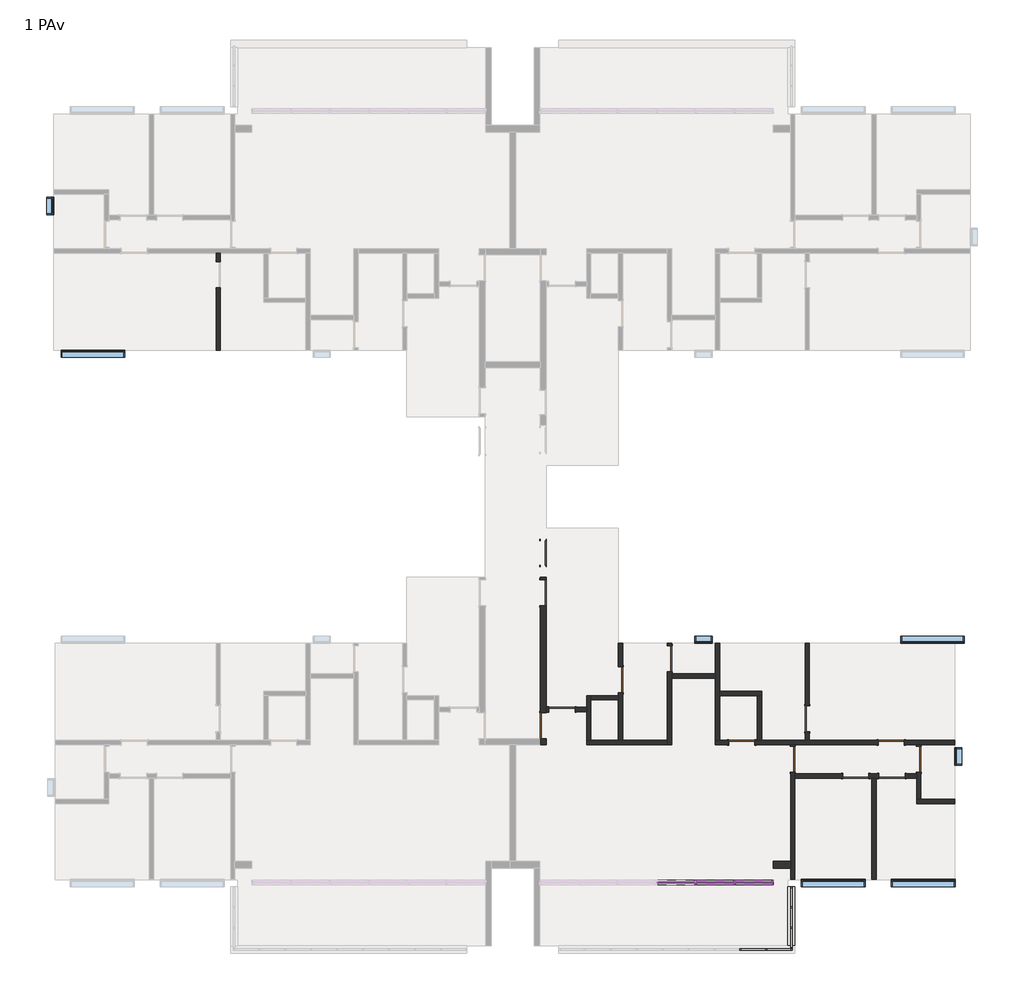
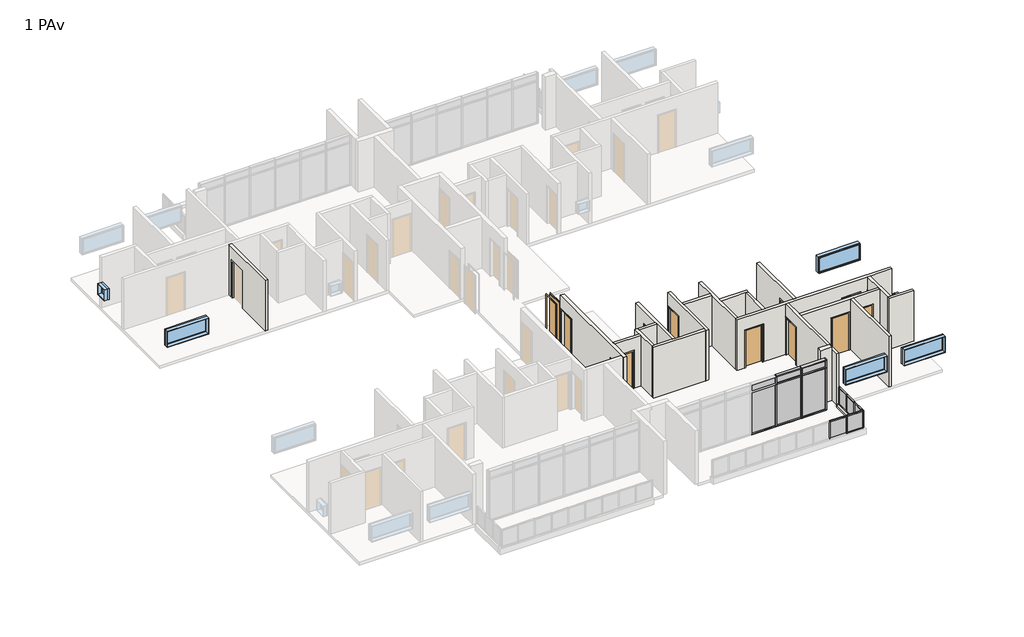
# One storey, part 3 of 6: 29 members, 21 walls, 13 doors, 11 plates, 7 windows.
"""IFC4 building model written with IfcOpenShell, lengths in millimetres."""

from ifc_helpers import new_model, si_unit, frame, origin, place, context, project, spatial, polyline, outline, extrude, faceted_brep, transform, mapped, element, save
from components import door_85_x_210_7675e995, door_90_x_210_ee935524, door_90_x_210_565370b3, door_90_x_210_fbafd55c, montante_retangular_50_mm_quadrado_4acded50, montante_retangular_50_mm_quadrado_237d7072, montante_retangular_50_mm_quadrado_84e40a56, montante_retangular_50_mm_quadrado_3d152aff, montante_retangular_50_mm_quadrado_a01005a4, montante_retangular_50_mm_quadrado_ddd80bd7, montante_retangular_50_x_150_mm_6217edde, montante_retangular_50_x_150_mm_a22249d7, montante_retangular_50_x_150_mm_6225e4e3, montante_retangular_50_x_150_mm_1ca2bba2, montante_retangular_50_x_150_mm_6abf4531, montante_retangular_50_x_150_mm_662c37b1, montante_retangular_50_x_150_mm_567eccab, montante_retangular_50_x_150_mm_0a8c3443, painel_do_sistema_57ceaf50, painel_do_sistema_ab0ed719, painel_do_sistema_0196877a, painel_do_sistema_2aa81470, painel_do_sistema_1ecb5f42, painel_do_sistema_49db1829, painel_do_sistema_5ea5287b, painel_do_sistema_7730abee, window_0610_x_0610_mm_da1d4716, window_0610_x_0610_mm_b5667cc9, window_220_x_90_84e01c73

model = new_model("IFC4")

# Units and contexts
model_context = context("Model", 3, world=origin())
ifc_project = project(units=[si_unit("LENGTHUNIT", "METRE", prefix="MILLI")], contexts=[model_context])

# Site, building, storey
site = spatial("IfcSite", under=ifc_project)
building = spatial("IfcBuilding", under=site)
storey = spatial("IfcBuildingStorey", under=building, Name="1 PAv", Elevation=3000.0)

# Doors
placement = place(None, origin())
door_85_x_210_shape = door_85_x_210_7675e995(model_context)
element("IfcDoor", 1, ObjectType="M_Descarga simples : 85 x 210", at=placement, inside=storey, context=model_context, shape_type="MappedRepresentation", body=[
    mapped(door_85_x_210_shape, transform((23.7734258, -1171.3385375, 3000.0), x_axis=(0.0, -1.0, 0.0), y_axis=(1.0, 0.0, 0.0), z_axis=(0.0, 0.0, 1.0))),
])
door_90_x_210_shape = door_90_x_210_ee935524(model_context)
element("IfcDoor", 2, ObjectType="M_Descarga simples : 90 x 210", at=placement, inside=storey, context=model_context, shape_type="MappedRepresentation", body=[
    mapped(door_90_x_210_shape, transform((12063.7734258, -8861.3385375, 3000.0), x_axis=(-1.0, 0.0, 0.0), y_axis=(0.0, -1.0, 0.0), z_axis=(0.0, 0.0, 1.0))),
])
element("IfcDoor", 3, ObjectType="M_Descarga simples : 90 x 210", at=placement, inside=storey, context=model_context, shape_type="MappedRepresentation", body=[
    mapped(door_90_x_210_shape, transform((12043.7734258, -7711.3385375, 3000.0), x_axis=(1.0, 0.0, 0.0), y_axis=(0.0, 1.0, 0.0), z_axis=(0.0, 0.0, 1.0))),
])
element("IfcDoor", 4, ObjectType="M_Descarga simples : 90 x 210", at=placement, inside=storey, context=model_context, shape_type="MappedRepresentation", body=[
    mapped(door_90_x_210_shape, transform((6883.7734258, -7711.3385375, 3000.0), x_axis=(1.0, 0.0, 0.0), y_axis=(0.0, 1.0, 0.0), z_axis=(0.0, 0.0, 1.0))),
])
door_90_x_210_2_shape = door_90_x_210_565370b3(model_context)
element("IfcDoor", 5, ObjectType="M_Descarga simples : 90 x 210", at=placement, inside=storey, context=model_context, shape_type="MappedRepresentation", body=[
    mapped(door_90_x_210_2_shape, transform((673.7734258, -6571.3385375, 3000.0), x_axis=(-1.0, 0.0, 0.0), y_axis=(0.0, -1.0, 0.0), z_axis=(0.0, 0.0, 1.0))),
])
element("IfcDoor", 6, ObjectType="M_Descarga simples : 90 x 210", at=placement, inside=storey, context=model_context, shape_type="MappedRepresentation", body=[
    mapped(door_90_x_210_2_shape, transform((2698.7734258, -5536.3385375, 3000.0), x_axis=(0.0, 1.0, 0.0), y_axis=(-1.0, 0.0, 0.0), z_axis=(0.0, 0.0, 1.0))),
])
element("IfcDoor", 7, ObjectType="M_Descarga simples : 90 x 210", at=placement, inside=storey, context=model_context, shape_type="MappedRepresentation", body=[
    mapped(door_90_x_210_2_shape, transform((4388.7734258, -4811.3385375, 3000.0), x_axis=(0.0, 1.0, 0.0), y_axis=(-1.0, 0.0, 0.0), z_axis=(0.0, 0.0, 1.0))),
])
element("IfcDoor", 8, ObjectType="M_Descarga simples : 90 x 210", at=placement, inside=storey, context=model_context, shape_type="MappedRepresentation", body=[
    mapped(door_90_x_210_2_shape, transform((9138.7734258, -6886.3385375, 3000.0), x_axis=(0.0, -1.0, 0.0), y_axis=(1.0, 0.0, 0.0), z_axis=(0.0, 0.0, 1.0))),
])
element("IfcDoor", 9, ObjectType="M_Descarga simples : 90 x 210", at=placement, inside=storey, context=model_context, shape_type="MappedRepresentation", body=[
    mapped(door_90_x_210_2_shape, transform((8638.7734258, -8286.3385375, 3000.0), x_axis=(0.0, 1.0, 0.0), y_axis=(-1.0, 0.0, 0.0), z_axis=(0.0, 0.0, 1.0))),
])
element("IfcDoor", 10, ObjectType="M_Descarga simples : 90 x 210", at=placement, inside=storey, context=model_context, shape_type="MappedRepresentation", body=[
    mapped(door_90_x_210_2_shape, transform((12988.7734258, -8286.3385375, 3000.0), x_axis=(0.0, 1.0, 0.0), y_axis=(-1.0, 0.0, 0.0), z_axis=(0.0, 0.0, 1.0))),
])
element("IfcDoor", 11, ObjectType="M_Descarga simples : 90 x 210", at=placement, inside=storey, context=model_context, shape_type="MappedRepresentation", body=[
    mapped(door_90_x_210_2_shape, transform((10813.7734258, -8861.3385375, 3000.0), x_axis=(1.0, 0.0, 0.0), y_axis=(0.0, 1.0, 0.0), z_axis=(0.0, 0.0, 1.0))),
])
door_90_x_210_3_shape = door_90_x_210_fbafd55c(model_context)
element("IfcDoor", 12, ObjectType="M_Descarga simples : 90 x 210", at=placement, inside=storey, context=model_context, shape_type="MappedRepresentation", body=[
    mapped(door_90_x_210_3_shape, transform((23.7734258, -2546.3385375, 3000.0), x_axis=(0.0, 1.0, 0.0), y_axis=(-1.0, 0.0, 0.0), z_axis=(0.0, 0.0, 1.0))),
])
element("IfcDoor", 13, ObjectType="M_Descarga simples : 90 x 210", at=placement, inside=storey, context=model_context, shape_type="MappedRepresentation", body=[
    mapped(door_90_x_210_3_shape, transform((23.7734258, -7125.9292512, 3000.0), x_axis=(0.0, -1.0, 0.0), y_axis=(1.0, 0.0, 0.0), z_axis=(0.0, 0.0, 1.0))),
])

# Members
montante_retangular_50_mm_quadrado_shape = montante_retangular_50_mm_quadrado_4acded50(model_context)
element("IfcMember", 14, ObjectType="Montante retangular : 50 mm Quadrado", at=placement, inside=storey, context=model_context, shape_type="MappedRepresentation", body=[
    mapped(montante_retangular_50_mm_quadrado_shape, transform((8563.7734258, -14856.3385375, 4150.0), x_axis=(0.0, 0.0, 1.0), y_axis=(0.0, -1.0, 0.0), z_axis=(1.0, 0.0, 0.0))),
])
montante_retangular_50_mm_quadrado_2_shape = montante_retangular_50_mm_quadrado_237d7072(model_context)
element("IfcMember", 15, ObjectType="Montante retangular : 50 mm Quadrado", at=placement, inside=storey, context=model_context, shape_type="MappedRepresentation", body=[
    mapped(montante_retangular_50_mm_quadrado_2_shape, transform((7693.7734258, -14856.3385375, 4150.0), x_axis=(0.0, 0.0, 1.0), y_axis=(0.0, -1.0, 0.0), z_axis=(1.0, 0.0, 0.0))),
])
element("IfcMember", 16, ObjectType="Montante retangular : 50 mm Quadrado", at=placement, inside=storey, context=model_context, shape_type="MappedRepresentation", body=[
    mapped(montante_retangular_50_mm_quadrado_shape, transform((7743.7734258, -14856.3385375, 3150.0), x_axis=(0.0, 0.0, -1.0), y_axis=(0.0, -1.0, 0.0), z_axis=(-1.0, 0.0, 0.0))),
])
montante_retangular_50_mm_quadrado_3_shape = montante_retangular_50_mm_quadrado_84e40a56(model_context)
element("IfcMember", 17, ObjectType="Montante retangular : 50 mm Quadrado", at=placement, inside=storey, context=model_context, shape_type="MappedRepresentation", body=[
    mapped(montante_retangular_50_mm_quadrado_3_shape, transform((6823.7734258, -14856.3385375, 3150.0), x_axis=(1.0, 0.0, 0.0), y_axis=(0.0, -1.0, 0.0), z_axis=(0.0, 0.0, -1.0))),
])
element("IfcMember", 18, ObjectType="Montante retangular : 50 mm Quadrado", at=placement, inside=storey, context=model_context, shape_type="MappedRepresentation", body=[
    mapped(montante_retangular_50_mm_quadrado_3_shape, transform((7718.7734258, -14856.3385375, 3150.0), x_axis=(1.0, 0.0, 0.0), y_axis=(0.0, -1.0, 0.0), z_axis=(0.0, 0.0, -1.0))),
])
element("IfcMember", 19, ObjectType="Montante retangular : 50 mm Quadrado", at=placement, inside=storey, context=model_context, shape_type="MappedRepresentation", body=[
    mapped(montante_retangular_50_mm_quadrado_3_shape, transform((8588.7734258, -14116.3385375, 3150.0), x_axis=(0.0, 1.0, 0.0), y_axis=(1.0, 0.0, 0.0), z_axis=(0.0, 0.0, -1.0))),
])
element("IfcMember", 20, ObjectType="Montante retangular : 50 mm Quadrado", at=placement, inside=storey, context=model_context, shape_type="MappedRepresentation", body=[
    mapped(montante_retangular_50_mm_quadrado_3_shape, transform((8588.7734258, -13401.3385375, 3150.0), x_axis=(0.0, 1.0, 0.0), y_axis=(1.0, 0.0, 0.0), z_axis=(0.0, 0.0, -1.0))),
])
montante_retangular_50_mm_quadrado_4_shape = montante_retangular_50_mm_quadrado_3d152aff(model_context)
element("IfcMember", 21, ObjectType="Montante retangular : 50 mm Quadrado", at=placement, inside=storey, context=model_context, shape_type="MappedRepresentation", body=[
    mapped(montante_retangular_50_mm_quadrado_4_shape, transform((8613.7734258, -14856.3385375, 3150.0), x_axis=(1.0, 0.0, 0.0), y_axis=(0.0, -1.0, 0.0), z_axis=(0.0, 0.0, -1.0))),
])
element("IfcMember", 22, ObjectType="Montante retangular : 50 mm Quadrado", at=placement, inside=storey, context=model_context, shape_type="MappedRepresentation", body=[
    mapped(montante_retangular_50_mm_quadrado_4_shape, transform((8588.7734258, -12686.3385375, 3150.0), x_axis=(0.0, 1.0, 0.0), y_axis=(1.0, 0.0, 0.0), z_axis=(0.0, 0.0, -1.0))),
])
element("IfcMember", 23, ObjectType="Montante retangular : 50 mm Quadrado", at=placement, inside=storey, context=model_context, shape_type="MappedRepresentation", body=[
    mapped(montante_retangular_50_mm_quadrado_4_shape, transform((8588.7734258, -14831.3385375, 4150.0), x_axis=(0.0, -1.0, 0.0), y_axis=(1.0, 0.0, 0.0), z_axis=(0.0, 0.0, 1.0))),
])
montante_retangular_50_mm_quadrado_5_shape = montante_retangular_50_mm_quadrado_a01005a4(model_context)
element("IfcMember", 24, ObjectType="Montante retangular : 50 mm Quadrado", at=placement, inside=storey, context=model_context, shape_type="MappedRepresentation", body=[
    mapped(montante_retangular_50_mm_quadrado_5_shape, transform((8588.7734258, -12736.3385375, 4150.0), x_axis=(0.0, 0.0, 1.0), y_axis=(1.0, 0.0, 0.0), z_axis=(0.0, 1.0, 0.0))),
])
element("IfcMember", 25, ObjectType="Montante retangular : 50 mm Quadrado", at=placement, inside=storey, context=model_context, shape_type="MappedRepresentation", body=[
    mapped(montante_retangular_50_mm_quadrado_5_shape, transform((8588.7734258, -14141.3385375, 4150.0), x_axis=(0.0, 0.0, 1.0), y_axis=(1.0, 0.0, 0.0), z_axis=(0.0, 1.0, 0.0))),
])
montante_retangular_50_mm_quadrado_6_shape = montante_retangular_50_mm_quadrado_ddd80bd7(model_context)
element("IfcMember", 26, ObjectType="Montante retangular : 50 mm Quadrado", at=placement, inside=storey, context=model_context, shape_type="MappedRepresentation", body=[
    mapped(montante_retangular_50_mm_quadrado_6_shape, transform((8588.7734258, -13426.3385375, 4150.0), x_axis=(0.0, 0.0, 1.0), y_axis=(1.0, 0.0, 0.0), z_axis=(0.0, 1.0, 0.0))),
])
element("IfcMember", 27, ObjectType="Montante retangular : 50 mm Quadrado", at=placement, inside=storey, context=model_context, shape_type="MappedRepresentation", body=[
    mapped(montante_retangular_50_mm_quadrado_5_shape, transform((8588.7734258, -14781.3385375, 3150.0), x_axis=(0.0, 0.0, -1.0), y_axis=(1.0, 0.0, 0.0), z_axis=(0.0, -1.0, 0.0))),
])
element("IfcMember", 28, ObjectType="Montante retangular : 50 mm Quadrado", at=placement, inside=storey, context=model_context, shape_type="MappedRepresentation", body=[
    mapped(montante_retangular_50_mm_quadrado_5_shape, transform((8588.7734258, -13376.3385375, 3150.0), x_axis=(0.0, 0.0, -1.0), y_axis=(1.0, 0.0, 0.0), z_axis=(0.0, -1.0, 0.0))),
])
element("IfcMember", 29, ObjectType="Montante retangular : 50 mm Quadrado", at=placement, inside=storey, context=model_context, shape_type="MappedRepresentation", body=[
    mapped(montante_retangular_50_mm_quadrado_6_shape, transform((8588.7734258, -14091.3385375, 3150.0), x_axis=(0.0, 0.0, -1.0), y_axis=(1.0, 0.0, 0.0), z_axis=(0.0, -1.0, 0.0))),
])
montante_retangular_50_x_150_mm_shape = montante_retangular_50_x_150_mm_6217edde(model_context)
element("IfcMember", 30, ObjectType="Montante retangular : 50 x 150 mm", at=placement, inside=storey, context=model_context, shape_type="MappedRepresentation", body=[
    mapped(montante_retangular_50_x_150_mm_shape, transform((6654.6067592, -12536.3385375, 5850.0), x_axis=(0.0, 0.0, 1.0), y_axis=(0.0, 1.0, 0.0), z_axis=(-1.0, 0.0, 0.0))),
])
montante_retangular_50_x_150_mm_2_shape = montante_retangular_50_x_150_mm_a22249d7(model_context)
element("IfcMember", 31, ObjectType="Montante retangular : 50 x 150 mm", at=placement, inside=storey, context=model_context, shape_type="MappedRepresentation", body=[
    mapped(montante_retangular_50_x_150_mm_2_shape, transform((5310.4400925, -12536.3385375, 5850.0), x_axis=(0.0, 0.0, 1.0), y_axis=(0.0, 1.0, 0.0), z_axis=(-1.0, 0.0, 0.0))),
])
element("IfcMember", 32, ObjectType="Montante retangular : 50 x 150 mm", at=placement, inside=storey, context=model_context, shape_type="MappedRepresentation", body=[
    mapped(montante_retangular_50_x_150_mm_shape, transform((7923.7734258, -12536.3385375, 3000.0), x_axis=(0.0, 0.0, -1.0), y_axis=(0.0, 1.0, 0.0), z_axis=(1.0, 0.0, 0.0))),
])
element("IfcMember", 33, ObjectType="Montante retangular : 50 x 150 mm", at=placement, inside=storey, context=model_context, shape_type="MappedRepresentation", body=[
    mapped(montante_retangular_50_x_150_mm_2_shape, transform((6604.6067592, -12536.3385375, 3000.0), x_axis=(0.0, 0.0, -1.0), y_axis=(0.0, 1.0, 0.0), z_axis=(1.0, 0.0, 0.0))),
])
element("IfcMember", 34, ObjectType="Montante retangular : 50 x 150 mm", at=placement, inside=storey, context=model_context, shape_type="MappedRepresentation", body=[
    mapped(montante_retangular_50_x_150_mm_2_shape, transform((5260.4400925, -12536.3385375, 3000.0), x_axis=(0.0, 0.0, -1.0), y_axis=(0.0, 1.0, 0.0), z_axis=(1.0, 0.0, 0.0))),
])
montante_retangular_50_x_150_mm_3_shape = montante_retangular_50_x_150_mm_6225e4e3(model_context)
element("IfcMember", 35, ObjectType="Montante retangular : 50 x 150 mm", at=placement, inside=storey, context=model_context, shape_type="MappedRepresentation", body=[
    mapped(montante_retangular_50_x_150_mm_3_shape, transform((6629.6067592, -12536.3385375, 3000.0), x_axis=(-1.0, 0.0, 0.0), y_axis=(0.0, 1.0, 0.0), z_axis=(0.0, 0.0, -1.0))),
])
element("IfcMember", 36, ObjectType="Montante retangular : 50 x 150 mm", at=placement, inside=storey, context=model_context, shape_type="MappedRepresentation", body=[
    mapped(montante_retangular_50_x_150_mm_3_shape, transform((5285.4400925, -12536.3385375, 3000.0), x_axis=(-1.0, 0.0, 0.0), y_axis=(0.0, 1.0, 0.0), z_axis=(0.0, 0.0, -1.0))),
])
montante_retangular_50_x_150_mm_4_shape = montante_retangular_50_x_150_mm_1ca2bba2(model_context)
element("IfcMember", 37, ObjectType="Montante retangular : 50 x 150 mm", at=placement, inside=storey, context=model_context, shape_type="MappedRepresentation", body=[
    mapped(montante_retangular_50_x_150_mm_4_shape, transform((6654.6067592, -12536.3385375, 5400.0), x_axis=(0.0, 0.0, 1.0), y_axis=(0.0, 1.0, 0.0), z_axis=(-1.0, 0.0, 0.0))),
])
montante_retangular_50_x_150_mm_5_shape = montante_retangular_50_x_150_mm_6abf4531(model_context)
element("IfcMember", 38, ObjectType="Montante retangular : 50 x 150 mm", at=placement, inside=storey, context=model_context, shape_type="MappedRepresentation", body=[
    mapped(montante_retangular_50_x_150_mm_5_shape, transform((5310.4400925, -12536.3385375, 5400.0), x_axis=(0.0, 0.0, 1.0), y_axis=(0.0, 1.0, 0.0), z_axis=(-1.0, 0.0, 0.0))),
])
montante_retangular_50_x_150_mm_6_shape = montante_retangular_50_x_150_mm_662c37b1(model_context)
element("IfcMember", 39, ObjectType="Montante retangular : 50 x 150 mm", at=placement, inside=storey, context=model_context, shape_type="MappedRepresentation", body=[
    mapped(montante_retangular_50_x_150_mm_6_shape, transform((7973.7734258, -12536.3385375, 5400.0), x_axis=(1.0, 0.0, 0.0), y_axis=(0.0, 1.0, 0.0), z_axis=(0.0, 0.0, 1.0))),
])
montante_retangular_50_x_150_mm_7_shape = montante_retangular_50_x_150_mm_567eccab(model_context)
element("IfcMember", 40, ObjectType="Montante retangular : 50 x 150 mm", at=placement, inside=storey, context=model_context, shape_type="MappedRepresentation", body=[
    mapped(montante_retangular_50_x_150_mm_7_shape, transform((6629.6067592, -12536.3385375, 5400.0), x_axis=(-1.0, 0.0, 0.0), y_axis=(0.0, 1.0, 0.0), z_axis=(0.0, 0.0, -1.0))),
])
element("IfcMember", 41, ObjectType="Montante retangular : 50 x 150 mm", at=placement, inside=storey, context=model_context, shape_type="MappedRepresentation", body=[
    mapped(montante_retangular_50_x_150_mm_7_shape, transform((5285.4400925, -12536.3385375, 5400.0), x_axis=(-1.0, 0.0, 0.0), y_axis=(0.0, 1.0, 0.0), z_axis=(0.0, 0.0, -1.0))),
])
montante_retangular_50_x_150_mm_8_shape = montante_retangular_50_x_150_mm_0a8c3443(model_context)
element("IfcMember", 42, ObjectType="Montante retangular : 50 x 150 mm", at=placement, inside=storey, context=model_context, shape_type="MappedRepresentation", body=[
    mapped(montante_retangular_50_x_150_mm_8_shape, transform((7973.7734258, -12536.3385375, 5850.0), x_axis=(1.0, 0.0, 0.0), y_axis=(0.0, 1.0, 0.0), z_axis=(0.0, 0.0, 1.0))),
])

# Plates
painel_do_sistema_shape = painel_do_sistema_57ceaf50(model_context)
element("IfcPlate", 43, ObjectType="Painel do sistema : Envidraçado", at=placement, inside=storey, context=model_context, shape_type="MappedRepresentation", body=[
    mapped(painel_do_sistema_shape, transform((8153.7734258, -14856.3385375, 3200.0), x_axis=(1.0, 0.0, 0.0), y_axis=(0.0, 1.0, 0.0), z_axis=(0.0, 0.0, 1.0))),
])
painel_do_sistema_2_shape = painel_do_sistema_ab0ed719(model_context)
element("IfcPlate", 44, ObjectType="Painel do sistema : Envidraçado", at=placement, inside=storey, context=model_context, shape_type="MappedRepresentation", body=[
    mapped(painel_do_sistema_2_shape, transform((7271.2734258, -14856.3385375, 3200.0), x_axis=(1.0, 0.0, 0.0), y_axis=(0.0, 1.0, 0.0), z_axis=(0.0, 0.0, 1.0))),
])
painel_do_sistema_3_shape = painel_do_sistema_0196877a(model_context)
element("IfcPlate", 45, ObjectType="Painel do sistema : Envidraçado", at=placement, inside=storey, context=model_context, shape_type="MappedRepresentation", body=[
    mapped(painel_do_sistema_3_shape, transform((8588.7734258, -14461.3385375, 3200.0), x_axis=(0.0, 1.0, 0.0), y_axis=(-1.0, 0.0, 0.0), z_axis=(0.0, 0.0, 1.0))),
])
element("IfcPlate", 46, ObjectType="Painel do sistema : Envidraçado", at=placement, inside=storey, context=model_context, shape_type="MappedRepresentation", body=[
    mapped(painel_do_sistema_3_shape, transform((8588.7734258, -13056.3385375, 3200.0), x_axis=(0.0, 1.0, 0.0), y_axis=(-1.0, 0.0, 0.0), z_axis=(0.0, 0.0, 1.0))),
])
painel_do_sistema_4_shape = painel_do_sistema_2aa81470(model_context)
element("IfcPlate", 47, ObjectType="Painel do sistema : Envidraçado", at=placement, inside=storey, context=model_context, shape_type="MappedRepresentation", body=[
    mapped(painel_do_sistema_4_shape, transform((8588.7734258, -13758.8385375, 3200.0), x_axis=(0.0, 1.0, 0.0), y_axis=(-1.0, 0.0, 0.0), z_axis=(0.0, 0.0, 1.0))),
])
painel_do_sistema_5_shape = painel_do_sistema_1ecb5f42(model_context)
element("IfcPlate", 48, ObjectType="Painel do sistema : Envidraçado", at=placement, inside=storey, context=model_context, shape_type="MappedRepresentation", body=[
    mapped(painel_do_sistema_5_shape, transform((7289.1900925, -12536.3385375, 3050.0), x_axis=(-1.0, 0.0, 0.0), y_axis=(0.0, -1.0, 0.0), z_axis=(0.0, 0.0, 1.0))),
])
painel_do_sistema_6_shape = painel_do_sistema_49db1829(model_context)
element("IfcPlate", 49, ObjectType="Painel do sistema : Envidraçado", at=placement, inside=storey, context=model_context, shape_type="MappedRepresentation", body=[
    mapped(painel_do_sistema_6_shape, transform((5957.5234258, -12536.3385375, 3050.0), x_axis=(-1.0, 0.0, 0.0), y_axis=(0.0, -1.0, 0.0), z_axis=(0.0, 0.0, 1.0))),
])
element("IfcPlate", 50, ObjectType="Painel do sistema : Envidraçado", at=placement, inside=storey, context=model_context, shape_type="MappedRepresentation", body=[
    mapped(painel_do_sistema_6_shape, transform((4613.3567592, -12536.3385375, 3050.0), x_axis=(-1.0, 0.0, 0.0), y_axis=(0.0, -1.0, 0.0), z_axis=(0.0, 0.0, 1.0))),
])
painel_do_sistema_7_shape = painel_do_sistema_5ea5287b(model_context)
element("IfcPlate", 51, ObjectType="Painel do sistema : Envidraçado", at=placement, inside=storey, context=model_context, shape_type="MappedRepresentation", body=[
    mapped(painel_do_sistema_7_shape, transform((7289.1900925, -12536.3385375, 5425.0), x_axis=(-1.0, 0.0, 0.0), y_axis=(0.0, -1.0, 0.0), z_axis=(0.0, 0.0, 1.0))),
])
painel_do_sistema_8_shape = painel_do_sistema_7730abee(model_context)
element("IfcPlate", 52, ObjectType="Painel do sistema : Envidraçado", at=placement, inside=storey, context=model_context, shape_type="MappedRepresentation", body=[
    mapped(painel_do_sistema_8_shape, transform((5957.5234258, -12536.3385375, 5425.0), x_axis=(-1.0, 0.0, 0.0), y_axis=(0.0, -1.0, 0.0), z_axis=(0.0, 0.0, 1.0))),
])
element("IfcPlate", 53, ObjectType="Painel do sistema : Envidraçado", at=placement, inside=storey, context=model_context, shape_type="MappedRepresentation", body=[
    mapped(painel_do_sistema_8_shape, transform((4613.3567592, -12536.3385375, 5425.0), x_axis=(-1.0, 0.0, 0.0), y_axis=(0.0, -1.0, 0.0), z_axis=(0.0, 0.0, 1.0))),
])

# Walls
element("IfcWall", 54, ObjectType="Exeterna 25", at=placement, inside=storey, context=model_context, shape_type="Brep", body=[
    faceted_brep([(8713.7734258, -14731.3385375, 2850.0), (8713.7734258, -12686.3385375, 2850.0), (8713.7734258, -12686.3385375, 3150.0), (8713.7734258, -14731.3385375, 3150.0), (8463.7734258, -12686.3385375, 2850.0), (8463.7734258, -14731.3385375, 2850.0), (8463.7734258, -14731.3385375, 3000.0), (8463.7734258, -14731.3385375, 3150.0), (8463.7734258, -12686.3385375, 3150.0), (8463.7734258, -12686.3385375, 3000.0)], [[[0, 1, 2, 3]], [[4, 5, 6, 7, 8, 9]], [[1, 0, 5, 4]], [[3, 2, 8, 7]], [[0, 3, 7, 6, 5]], [[2, 1, 4, 9, 8]]]),
])
element("IfcWall", 55, ObjectType="Exeterna 25", at=placement, inside=storey, context=model_context, shape_type="SweptSolid", body=[
    extrude(outline(polyline([(8563.7734258, -12056.3385375), (7973.7734258, -12056.3385375), (7973.7734258, -11806.3385375), (8563.7734258, -11806.3385375), (8563.7734258, -12056.3385375)])), frame((0.0, 0.0, 3000.0), z_axis=(0.0, 0.0, 1.0), x_axis=(1.0, 0.0, 0.0)), (0.0, 0.0, 1.0), 3000.0),
])
element("IfcWall", 56, ObjectType="Interna 15", at=placement, inside=storey, context=model_context, shape_type="SweptSolid", body=[
    extrude(outline(polyline([(9183.6614625, 3000.0), (8883.6614625, 3000.0), (8883.6614625, 5100.0), (7983.6614625, 5100.0), (7983.6614625, 3000.0), (5833.6614625, 3000.0), (5833.6614625, 5850.0), (9183.6614625, 5850.0), (9183.6614625, 3000.0)])), frame((-11266.2265742, 0.0, 0.0), z_axis=(1.0, 0.0, 0.0), x_axis=(0.0, 1.0, 0.0)), (0.0, 0.0, 1.0), 150.0),
])
element("IfcWall", 57, ObjectType="Interna 15", at=placement, inside=storey, context=model_context, shape_type="Brep", body=[
    faceted_brep([(8713.7734258, -7836.3385375, 5100.0), (8713.7734258, -7836.3385375, 3000.0), (8713.7734258, -7786.3385375, 3000.0), (8713.7734258, -7786.3385375, 5850.0), (8713.7734258, -8786.3385375, 5850.0), (8713.7734258, -8936.3385375, 5850.0), (8713.7734258, -12436.3385375, 5850.0), (8713.7734258, -12436.3385375, 3000.0), (8713.7734258, -8936.3385375, 3000.0), (8713.7734258, -8786.3385375, 3000.0), (8713.7734258, -8736.3385375, 3000.0), (8713.7734258, -8736.3385375, 5100.0), (8563.7734258, -7786.3385375, 3000.0), (8563.7734258, -7836.3385375, 3000.0), (8563.7734258, -7836.3385375, 5100.0), (8563.7734258, -8736.3385375, 5100.0), (8563.7734258, -8736.3385375, 3000.0), (8563.7734258, -11806.3385375, 3000.0), (8563.7734258, -12056.3385375, 3000.0), (8563.7734258, -12436.3385375, 3000.0), (8563.7734258, -12436.3385375, 5850.0), (8563.7734258, -7786.3385375, 5850.0)], [[[0, 1, 2, 3, 4, 5, 6, 7, 8, 9, 10, 11]], [[12, 13, 14, 15, 16, 17, 18, 19, 20, 21]], [[2, 1, 13, 12]], [[10, 9, 8, 7, 19, 18, 17, 16]], [[6, 5, 4, 3, 21, 20]], [[3, 2, 12, 21]], [[7, 6, 20, 19]], [[14, 13, 1, 0]], [[15, 14, 0, 11]], [[16, 15, 11, 10]]]),
])
element("IfcWall", 58, ObjectType="Interna 15", at=placement, inside=storey, context=model_context, shape_type="Brep", body=[
    faceted_brep([(11263.7734258, -8936.3385375, 3000.0), (11363.7734258, -8936.3385375, 3000.0), (11513.7734258, -8936.3385375, 3000.0), (11613.7734258, -8936.3385375, 3000.0), (11613.7734258, -8936.3385375, 5100.0), (12513.7734258, -8936.3385375, 5100.0), (12513.7734258, -8936.3385375, 3000.0), (12913.7734258, -8936.3385375, 3000.0), (12913.7734258, -8936.3385375, 5850.0), (11513.7734258, -8936.3385375, 5850.0), (11363.7734258, -8936.3385375, 5850.0), (8713.7734258, -8936.3385375, 5850.0), (8713.7734258, -8936.3385375, 3000.0), (10363.7734258, -8936.3385375, 3000.0), (10363.7734258, -8936.3385375, 5100.0), (11263.7734258, -8936.3385375, 5100.0), (11613.7734258, -8786.3385375, 5100.0), (11613.7734258, -8786.3385375, 3000.0), (11263.7734258, -8786.3385375, 3000.0), (11263.7734258, -8786.3385375, 5100.0), (10363.7734258, -8786.3385375, 5100.0), (10363.7734258, -8786.3385375, 3000.0), (8713.7734258, -8786.3385375, 3000.0), (8713.7734258, -8786.3385375, 5850.0), (12913.7734258, -8786.3385375, 5850.0), (12913.7734258, -8786.3385375, 3000.0), (12513.7734258, -8786.3385375, 3000.0), (12513.7734258, -8786.3385375, 5100.0)], [[[0, 1, 2, 3, 4, 5, 6, 7, 8, 9, 10, 11, 12, 13, 14, 15]], [[16, 17, 18, 19, 20, 21, 22, 23, 24, 25, 26, 27]], [[13, 12, 22, 21]], [[26, 25, 7, 6]], [[18, 17, 3, 2, 1, 0]], [[11, 10, 9, 8, 24, 23]], [[12, 11, 23, 22]], [[8, 7, 25, 24]], [[4, 3, 17, 16]], [[5, 4, 16, 27]], [[6, 5, 27, 26]], [[19, 18, 0, 15]], [[20, 19, 15, 14]], [[21, 20, 14, 13]]]),
])
element("IfcWall", 59, ObjectType="Interna 15", at=placement, inside=storey, context=model_context, shape_type="SweptSolid", body=[
    extrude(outline(polyline([(11363.7734258, -12436.3385375), (11363.7734258, -8936.3385375), (11513.7734258, -8936.3385375), (11513.7734258, -12436.3385375), (11363.7734258, -12436.3385375)])), frame((0.0, 0.0, 3000.0), z_axis=(0.0, 0.0, 1.0), x_axis=(1.0, 0.0, 0.0)), (0.0, 0.0, 1.0), 2850.0),
])
element("IfcWall", 60, ObjectType="Interna 15", at=placement, inside=storey, context=model_context, shape_type="Brep", body=[
    faceted_brep([(14223.269929, -9666.3385375, 3000.0), (13063.7734258, -9666.3385375, 3000.0), (12913.7734258, -9666.3385375, 3000.0), (12913.7734258, -9666.3385375, 5850.0), (13063.7734258, -9666.3385375, 5850.0), (14223.269929, -9666.3385375, 5850.0), (14223.269929, -9816.3385375, 3000.0), (14223.269929, -9816.3385375, 5850.0), (12913.7734258, -9816.3385375, 5850.0), (12913.7734258, -9816.3385375, 3000.0)], [[[0, 1, 2, 3, 4, 5]], [[6, 7, 8, 9]], [[2, 1, 0, 6, 9]], [[5, 4, 3, 8, 7]], [[0, 5, 7, 6]], [[3, 2, 9, 8]]]),
])
element("IfcWall", 61, ObjectType="Interna 15", at=placement, inside=storey, context=model_context, shape_type="Brep", body=[
    faceted_brep([(13063.7734258, -7836.3385375, 5100.0), (13063.7734258, -7836.3385375, 3000.0), (13063.7734258, -7786.3385375, 3000.0), (13063.7734258, -7786.3385375, 5850.0), (13063.7734258, -9666.3385375, 5850.0), (13063.7734258, -9666.3385375, 3000.0), (13063.7734258, -8736.3385375, 3000.0), (13063.7734258, -8736.3385375, 5100.0), (12913.7734258, -7786.3385375, 3000.0), (12913.7734258, -7836.3385375, 3000.0), (12913.7734258, -7836.3385375, 5100.0), (12913.7734258, -8736.3385375, 5100.0), (12913.7734258, -8736.3385375, 3000.0), (12913.7734258, -8786.3385375, 3000.0), (12913.7734258, -8936.3385375, 3000.0), (12913.7734258, -9666.3385375, 3000.0), (12913.7734258, -9666.3385375, 5850.0), (12913.7734258, -8936.3385375, 5850.0), (12913.7734258, -8786.3385375, 5850.0), (12913.7734258, -7786.3385375, 5850.0)], [[[0, 1, 2, 3, 4, 5, 6, 7]], [[8, 9, 10, 11, 12, 13, 14, 15, 16, 17, 18, 19]], [[6, 5, 15, 14, 13, 12]], [[2, 1, 9, 8]], [[4, 3, 19, 18, 17, 16]], [[3, 2, 8, 19]], [[5, 4, 16, 15]], [[10, 9, 1, 0]], [[11, 10, 0, 7]], [[12, 11, 7, 6]]]),
])
element("IfcWall", 62, ObjectType="Interna 15", at=placement, inside=storey, context=model_context, shape_type="Brep", body=[
    faceted_brep([(11593.7734258, -7636.3385375, 3000.0), (9213.7734258, -7636.3385375, 3000.0), (9063.7734258, -7636.3385375, 3000.0), (7563.7734258, -7636.3385375, 3000.0), (7413.7734258, -7636.3385375, 3000.0), (7333.7734258, -7636.3385375, 3000.0), (7333.7734258, -7636.3385375, 5100.0), (6433.7734258, -7636.3385375, 5100.0), (6433.7734258, -7636.3385375, 3000.0), (6113.7734258, -7636.3385375, 3000.0), (5963.7734258, -7636.3385375, 3000.0), (5963.7734258, -7636.3385375, 5850.0), (6113.7734258, -7636.3385375, 5850.0), (7413.7734258, -7636.3385375, 5850.0), (7563.7734258, -7636.3385375, 5850.0), (9063.7734258, -7636.3385375, 5850.0), (9213.7734258, -7636.3385375, 5850.0), (14223.269929, -7636.3385375, 5850.0), (14223.269929, -7636.3385375, 3000.0), (12493.7734258, -7636.3385375, 3000.0), (12493.7734258, -7636.3385375, 5100.0), (11593.7734258, -7636.3385375, 5100.0), (7333.7734258, -7786.3385375, 5100.0), (7333.7734258, -7786.3385375, 3000.0), (8563.7734258, -7786.3385375, 3000.0), (8713.7734258, -7786.3385375, 3000.0), (11593.7734258, -7786.3385375, 3000.0), (11593.7734258, -7786.3385375, 5100.0), (12493.7734258, -7786.3385375, 5100.0), (12493.7734258, -7786.3385375, 3000.0), (12913.7734258, -7786.3385375, 3000.0), (13063.7734258, -7786.3385375, 3000.0), (14223.269929, -7786.3385375, 3000.0), (14223.269929, -7786.3385375, 5850.0), (13063.7734258, -7786.3385375, 5850.0), (12913.7734258, -7786.3385375, 5850.0), (8713.7734258, -7786.3385375, 5850.0), (8563.7734258, -7786.3385375, 5850.0), (5963.7734258, -7786.3385375, 5850.0), (5963.7734258, -7786.3385375, 3000.0), (6433.7734258, -7786.3385375, 3000.0), (6433.7734258, -7786.3385375, 5100.0)], [[[0, 1, 2, 3, 4, 5, 6, 7, 8, 9, 10, 11, 12, 13, 14, 15, 16, 17, 18, 19, 20, 21]], [[22, 23, 24, 25, 26, 27, 28, 29, 30, 31, 32, 33, 34, 35, 36, 37, 38, 39, 40, 41]], [[40, 39, 10, 9, 8]], [[26, 25, 24, 23, 5, 4, 3, 2, 1, 0]], [[32, 31, 30, 29, 19, 18]], [[17, 16, 15, 14, 13, 12, 11, 38, 37, 36, 35, 34, 33]], [[18, 17, 33, 32]], [[11, 10, 39, 38]], [[6, 5, 23, 22]], [[7, 6, 22, 41]], [[8, 7, 41, 40]], [[20, 19, 29, 28]], [[21, 20, 28, 27]], [[0, 21, 27, 26]]]),
])
element("IfcWall", 63, ObjectType="Interna 15", at=placement, inside=storey, context=model_context, shape_type="Brep", body=[
    faceted_brep([(6113.7734258, -7636.3385375, 3000.0), (6113.7734258, -6086.3385375, 3000.0), (6113.7734258, -5936.3385375, 3000.0), (6113.7734258, -4286.3385375, 3000.0), (6113.7734258, -4286.3385375, 5850.0), (6113.7734258, -5936.3385375, 5850.0), (6113.7734258, -6086.3385375, 5850.0), (6113.7734258, -7636.3385375, 5850.0), (5963.7734258, -7636.3385375, 3000.0), (5963.7734258, -7636.3385375, 5850.0), (5963.7734258, -5486.3385375, 5850.0), (5963.7734258, -5336.3385375, 5850.0), (5963.7734258, -4286.3385375, 5850.0), (5963.7734258, -4286.3385375, 3000.0), (5963.7734258, -5336.3385375, 3000.0), (5963.7734258, -5486.3385375, 3000.0)], [[[0, 1, 2, 3, 4, 5, 6, 7]], [[8, 9, 10, 11, 12, 13, 14, 15]], [[3, 2, 1, 0, 8, 15, 14, 13]], [[7, 6, 5, 4, 12, 11, 10, 9]], [[0, 7, 9, 8]], [[4, 3, 13, 12]]]),
])
element("IfcWall", 64, ObjectType="Interna 15", at=placement, inside=storey, context=model_context, shape_type="Brep", body=[
    faceted_brep([(6113.7734258, -6086.3385375, 3000.0), (7413.7734258, -6086.3385375, 3000.0), (7563.7734258, -6086.3385375, 3000.0), (7563.7734258, -6086.3385375, 5850.0), (7413.7734258, -6086.3385375, 5850.0), (6113.7734258, -6086.3385375, 5850.0), (6113.7734258, -5936.3385375, 3000.0), (6113.7734258, -5936.3385375, 5850.0), (7563.7734258, -5936.3385375, 5850.0), (7563.7734258, -5936.3385375, 3000.0)], [[[0, 1, 2, 3, 4, 5]], [[6, 7, 8, 9]], [[2, 1, 0, 6, 9]], [[5, 4, 3, 8, 7]], [[0, 5, 7, 6]], [[3, 2, 9, 8]]]),
])
element("IfcWall", 65, ObjectType="Interna 15", at=placement, inside=storey, context=model_context, shape_type="SweptSolid", body=[
    extrude(outline(polyline([(7413.7734258, -7636.3385375), (7413.7734258, -6086.3385375), (7563.7734258, -6086.3385375), (7563.7734258, -7636.3385375), (7413.7734258, -7636.3385375)])), frame((0.0, 0.0, 3000.0), z_axis=(0.0, 0.0, 1.0), x_axis=(1.0, 0.0, 0.0)), (0.0, 0.0, 1.0), 2850.0),
])
element("IfcWall", 66, ObjectType="Interna 15", at=placement, inside=storey, context=model_context, shape_type="SweptSolid", body=[
    extrude(outline(polyline([(-7336.3385375, 5100.0), (-7336.3385375, 3000.0), (-7636.3385375, 3000.0), (-7636.3385375, 5850.0), (-4286.3385375, 5850.0), (-4286.3385375, 3000.0), (-6436.3385375, 3000.0), (-6436.3385375, 5100.0), (-7336.3385375, 5100.0)])), frame((9063.7734258, 0.0, 0.0), z_axis=(1.0, 0.0, 0.0), x_axis=(0.0, 1.0, 0.0)), (0.0, 0.0, 1.0), 150.0),
])
element("IfcWall", 67, ObjectType="Interna 15", at=placement, inside=storey, context=model_context, shape_type="SweptSolid", body=[
    extrude(outline(polyline([(4463.7734258, -5336.3385375), (5963.7734258, -5336.3385375), (5963.7734258, -5486.3385375), (4463.7734258, -5486.3385375), (4463.7734258, -5336.3385375)])), frame((0.0, 0.0, 3000.0), z_axis=(0.0, 0.0, 1.0), x_axis=(1.0, 0.0, 0.0)), (0.0, 0.0, 1.0), 2850.0),
])
element("IfcWall", 68, ObjectType="Interna 15", at=placement, inside=storey, context=model_context, shape_type="Brep", body=[
    faceted_brep([(4313.7734258, -4286.3385375, 3000.0), (4313.7734258, -4361.3385375, 3000.0), (4313.7734258, -4361.3385375, 5100.0), (4313.7734258, -5261.3385375, 5100.0), (4313.7734258, -5261.3385375, 3000.0), (4313.7734258, -7636.3385375, 3000.0), (4313.7734258, -7786.3385375, 3000.0), (4313.7734258, -7786.3385375, 5850.0), (4313.7734258, -7636.3385375, 5850.0), (4313.7734258, -4286.3385375, 5850.0), (4463.7734258, -4361.3385375, 5100.0), (4463.7734258, -4361.3385375, 3000.0), (4463.7734258, -4286.3385375, 3000.0), (4463.7734258, -4286.3385375, 5850.0), (4463.7734258, -5336.3385375, 5850.0), (4463.7734258, -5486.3385375, 5850.0), (4463.7734258, -7786.3385375, 5850.0), (4463.7734258, -7786.3385375, 3000.0), (4463.7734258, -5486.3385375, 3000.0), (4463.7734258, -5336.3385375, 3000.0), (4463.7734258, -5261.3385375, 3000.0), (4463.7734258, -5261.3385375, 5100.0)], [[[0, 1, 2, 3, 4, 5, 6, 7, 8, 9]], [[10, 11, 12, 13, 14, 15, 16, 17, 18, 19, 20, 21]], [[12, 11, 1, 0]], [[20, 19, 18, 17, 6, 5, 4]], [[9, 8, 7, 16, 15, 14, 13]], [[0, 9, 13, 12]], [[7, 6, 17, 16]], [[2, 1, 11, 10]], [[3, 2, 10, 21]], [[4, 3, 21, 20]]]),
])
element("IfcWall", 69, ObjectType="Interna 15", at=placement, inside=storey, context=model_context, shape_type="Brep", body=[
    faceted_brep([(4313.7734258, -7636.3385375, 3000.0), (2773.7734258, -7636.3385375, 3000.0), (2623.7734258, -7636.3385375, 3000.0), (1673.7734258, -7636.3385375, 3000.0), (1523.7734258, -7636.3385375, 3000.0), (1523.7734258, -7636.3385375, 5850.0), (1673.7734258, -7636.3385375, 5850.0), (2623.7734258, -7636.3385375, 5850.0), (2773.7734258, -7636.3385375, 5850.0), (4313.7734258, -7636.3385375, 5850.0), (4313.7734258, -7786.3385375, 3000.0), (4313.7734258, -7786.3385375, 5850.0), (1523.7734258, -7786.3385375, 5850.0), (1523.7734258, -7786.3385375, 3000.0)], [[[0, 1, 2, 3, 4, 5, 6, 7, 8, 9]], [[10, 11, 12, 13]], [[4, 3, 2, 1, 0, 10, 13]], [[9, 8, 7, 6, 5, 12, 11]], [[0, 9, 11, 10]], [[5, 4, 13, 12]]]),
])
element("IfcWall", 70, ObjectType="Interna 15", at=placement, inside=storey, context=model_context, shape_type="Brep", body=[
    faceted_brep([(2773.7734258, -5086.3385375, 5100.0), (2773.7734258, -5086.3385375, 3000.0), (2773.7734258, -4286.3385375, 3000.0), (2773.7734258, -4286.3385375, 5850.0), (2773.7734258, -7636.3385375, 5850.0), (2773.7734258, -7636.3385375, 3000.0), (2773.7734258, -5986.3385375, 3000.0), (2773.7734258, -5986.3385375, 5100.0), (2623.7734258, -4286.3385375, 3000.0), (2623.7734258, -5086.3385375, 3000.0), (2623.7734258, -5086.3385375, 5100.0), (2623.7734258, -5986.3385375, 5100.0), (2623.7734258, -5986.3385375, 3000.0), (2623.7734258, -6086.3385375, 3000.0), (2623.7734258, -6236.3385375, 3000.0), (2623.7734258, -7636.3385375, 3000.0), (2623.7734258, -7636.3385375, 5850.0), (2623.7734258, -6236.3385375, 5850.0), (2623.7734258, -6086.3385375, 5850.0), (2623.7734258, -4286.3385375, 5850.0)], [[[0, 1, 2, 3, 4, 5, 6, 7]], [[8, 9, 10, 11, 12, 13, 14, 15, 16, 17, 18, 19]], [[6, 5, 15, 14, 13, 12]], [[2, 1, 9, 8]], [[4, 3, 19, 18, 17, 16]], [[3, 2, 8, 19]], [[5, 4, 16, 15]], [[10, 9, 1, 0]], [[11, 10, 0, 7]], [[12, 11, 7, 6]]]),
])
element("IfcWall", 71, ObjectType="Interna 15", at=placement, inside=storey, context=model_context, shape_type="Brep", body=[
    faceted_brep([(1673.7734258, -7636.3385375, 3000.0), (1673.7734258, -6236.3385375, 3000.0), (1673.7734258, -6086.3385375, 3000.0), (1673.7734258, -6086.3385375, 5850.0), (1673.7734258, -6236.3385375, 5850.0), (1673.7734258, -7636.3385375, 5850.0), (1523.7734258, -7636.3385375, 3000.0), (1523.7734258, -7636.3385375, 5850.0), (1523.7734258, -6646.3385375, 5850.0), (1523.7734258, -6496.3385375, 5850.0), (1523.7734258, -6086.3385375, 5850.0), (1523.7734258, -6086.3385375, 3000.0), (1523.7734258, -6496.3385375, 3000.0), (1523.7734258, -6646.3385375, 3000.0)], [[[0, 1, 2, 3, 4, 5]], [[6, 7, 8, 9, 10, 11, 12, 13]], [[2, 1, 0, 6, 13, 12, 11]], [[5, 4, 3, 10, 9, 8, 7]], [[3, 2, 11, 10]], [[0, 5, 7, 6]]]),
])
element("IfcWall", 72, ObjectType="Interna 15", at=placement, inside=storey, context=model_context, shape_type="SweptSolid", body=[
    extrude(outline(polyline([(2623.7734258, -6236.3385375), (1673.7734258, -6236.3385375), (1673.7734258, -6086.3385375), (2623.7734258, -6086.3385375), (2623.7734258, -6236.3385375)])), frame((0.0, 0.0, 3000.0), z_axis=(0.0, 0.0, 1.0), x_axis=(1.0, 0.0, 0.0)), (0.0, 0.0, 1.0), 2850.0),
])
element("IfcWall", 73, ObjectType="Interna 15", at=placement, inside=storey, context=model_context, shape_type="SweptSolid", body=[
    extrude(outline(polyline([(3000.0, 123.7734258), (3000.0, 223.7734258), (5100.0, 223.7734258), (5100.0, 1123.7734258), (3000.0, 1123.7734258), (3000.0, 1523.7734258), (5850.0, 1523.7734258), (5850.0, 123.7734258), (3000.0, 123.7734258)])), frame((0.0, -6646.3385375, 0.0), z_axis=(0.0, 1.0, 0.0), x_axis=(0.0, 0.0, 1.0)), (0.0, 0.0, 1.0), 150.0),
])
element("IfcWall", 74, ObjectType="Interna 20", at=placement, inside=storey, context=model_context, shape_type="Brep", body=[
    faceted_brep([(123.7734258, -7786.3385375, 3000.0), (123.7734258, -7575.9292512, 3000.0), (123.7734258, -7575.9292512, 5100.0), (123.7734258, -6675.9292512, 5100.0), (123.7734258, -6675.9292512, 3000.0), (123.7734258, -6646.3385375, 3000.0), (123.7734258, -6496.3385375, 3000.0), (123.7734258, -2996.3385375, 3000.0), (123.7734258, -2996.3385375, 5100.0), (123.7734258, -2096.3385375, 5100.0), (123.7734258, -2096.3385375, 3000.0), (123.7734258, -1996.3385375, 3000.0), (123.7734258, -1996.3385375, 5850.0), (123.7734258, -6496.3385375, 5850.0), (123.7734258, -6646.3385375, 5850.0), (123.7734258, -7786.3385375, 5850.0), (-76.2265742, -7575.9292512, 5100.0), (-76.2265742, -7575.9292512, 3000.0), (-76.2265742, -7586.3385375, 3000.0), (-76.2265742, -7786.3385375, 3000.0), (-76.2265742, -7786.3385375, 5850.0), (-76.2265742, -7586.3385375, 5850.0), (-76.2265742, -1996.3385375, 5850.0), (-76.2265742, -1996.3385375, 3000.0), (-76.2265742, -2096.3385375, 3000.0), (-76.2265742, -2096.3385375, 5100.0), (-76.2265742, -2996.3385375, 5100.0), (-76.2265742, -2996.3385375, 3000.0), (-76.2265742, -6675.9292512, 3000.0), (-76.2265742, -6675.9292512, 5100.0)], [[[0, 1, 2, 3, 4, 5, 6, 7, 8, 9, 10, 11, 12, 13, 14, 15]], [[16, 17, 18, 19, 20, 21, 22, 23, 24, 25, 26, 27, 28, 29]], [[11, 10, 24, 23]], [[28, 27, 7, 6, 5, 4]], [[19, 18, 17, 1, 0]], [[15, 14, 13, 12, 22, 21, 20]], [[0, 15, 20, 19]], [[12, 11, 23, 22]], [[2, 1, 17, 16]], [[3, 2, 16, 29]], [[4, 3, 29, 28]], [[25, 24, 10, 9]], [[26, 25, 9, 8]], [[27, 26, 8, 7]]]),
])

# Windows
window_0610_x_0610_mm_shape = window_0610_x_0610_mm_da1d4716(model_context)
element("IfcWindow", 75, ObjectType="M_Fixado : 0610 x 0610 mm", at=placement, inside=storey, context=model_context, shape_type="MappedRepresentation", body=[
    mapped(window_0610_x_0610_mm_shape, transform((5563.7734258, -4148.3385375, 3000.0), x_axis=(-1.0, 0.0, 0.0), y_axis=(0.0, -1.0, 0.0), z_axis=(0.0, 0.0, 1.0))),
])
element("IfcWindow", 76, ObjectType="M_Fixado : 0610 x 0610 mm", at=placement, inside=storey, context=model_context, shape_type="MappedRepresentation", body=[
    mapped(window_0610_x_0610_mm_shape, transform((14361.269929, -8186.3385375, 3000.0), x_axis=(0.0, 1.0, 0.0), y_axis=(-1.0, 0.0, 0.0), z_axis=(0.0, 0.0, 1.0))),
])
window_0610_x_0610_mm_2_shape = window_0610_x_0610_mm_b5667cc9(model_context)
element("IfcWindow", 77, ObjectType="M_Fixado : 0610 x 0610 mm", at=placement, inside=storey, context=model_context, shape_type="MappedRepresentation", body=[
    mapped(window_0610_x_0610_mm_2_shape, transform((-17004.2265742, 10813.6614625, 3000.0), x_axis=(0.0, 1.0, 0.0), y_axis=(-1.0, 0.0, 0.0), z_axis=(0.0, 0.0, 1.0))),
])
window_220_x_90_shape = window_220_x_90_84e01c73(model_context)
element("IfcWindow", 78, ObjectType="M_Fixado : 220 x 90", at=placement, inside=storey, context=model_context, shape_type="MappedRepresentation", body=[
    mapped(window_220_x_90_shape, transform((10038.7734258, -12574.3385375, 3185.0), x_axis=(-1.0, 0.0, 0.0), y_axis=(0.0, -1.0, 0.0), z_axis=(0.0, 0.0, 1.0))),
])
element("IfcWindow", 79, ObjectType="M_Fixado : 220 x 90", at=placement, inside=storey, context=model_context, shape_type="MappedRepresentation", body=[
    mapped(window_220_x_90_shape, transform((13138.7734258, -12574.3385375, 3185.0), x_axis=(-1.0, 0.0, 0.0), y_axis=(0.0, -1.0, 0.0), z_axis=(0.0, 0.0, 1.0))),
])
element("IfcWindow", 80, ObjectType="M_Fixado : 220 x 90", at=placement, inside=storey, context=model_context, shape_type="MappedRepresentation", body=[
    mapped(window_220_x_90_shape, transform((13463.7734258, -4148.3385375, 3185.0), x_axis=(1.0, 0.0, 0.0), y_axis=(0.0, 1.0, 0.0), z_axis=(0.0, 0.0, 1.0))),
])
element("IfcWindow", 81, ObjectType="M_Fixado : 220 x 90", at=placement, inside=storey, context=model_context, shape_type="MappedRepresentation", body=[
    mapped(window_220_x_90_shape, transform((-15516.2265742, 5695.6614625, 3185.0), x_axis=(-1.0, 0.0, 0.0), y_axis=(0.0, -1.0, 0.0), z_axis=(0.0, 0.0, 1.0))),
])

save(model, "model.ifc")
